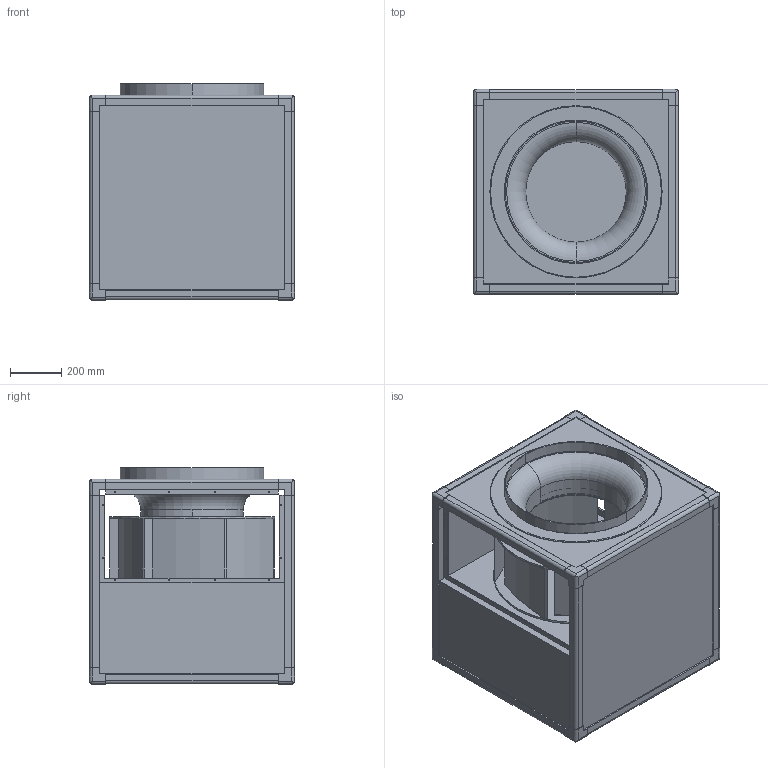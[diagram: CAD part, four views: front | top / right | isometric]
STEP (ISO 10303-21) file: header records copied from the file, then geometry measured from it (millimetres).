
FILE_DESCRIPTION(('STEP AP214'),'1');
FILE_NAME('fan_5148466500.stp','2017-09-06T16:17:37',('TraceParts'),('TraceParts S.A.'),'Spatial InterOp 3D',' ',' ');
FILE_SCHEMA(('automotive_design'));
Length unit declared in the file: millimetre
Products named in the file (1): fan_5148466500
Bounding box: 800 x 800 x 844 mm (x, y, z)
Volume: 111674571.6 mm3; surface area: 9902452.8 mm2
Topology: 1 solids, 1 shells, 954 faces, 2801 edges, 1827 vertices
Faces by surface type: plane 834, cylinder 114, torus 6
Entity records: 35198 total; most frequent: ORIENTED_EDGE 5602, CARTESIAN_POINT 5583, DIRECTION 4972, EDGE_CURVE 2801, LINE 2540, VECTOR 2540, VERTEX_POINT 1827, EDGE_LOOP 1276
